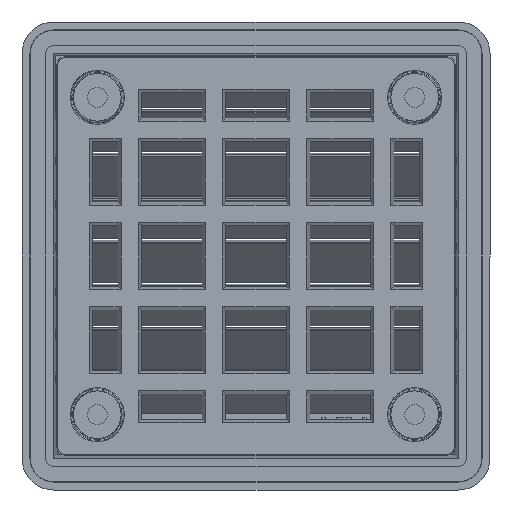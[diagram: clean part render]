
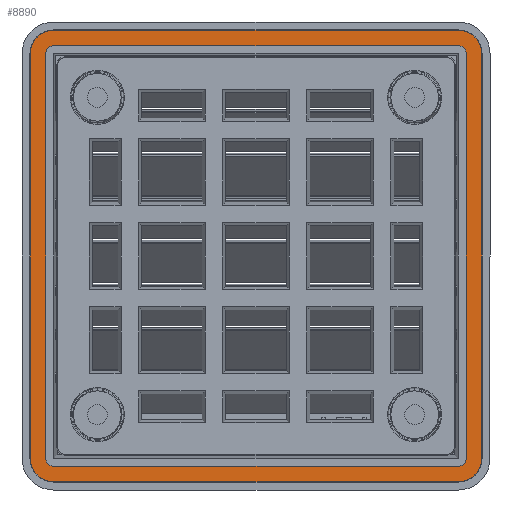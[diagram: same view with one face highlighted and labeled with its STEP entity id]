
A CAD part, front view. The second image highlights one B-rep face of the part: STEP entity #8890.
In plain terms, the highlighted planar face has unit normal (0, -1, 0).
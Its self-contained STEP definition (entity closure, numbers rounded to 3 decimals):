
#130 = AXIS2_PLACEMENT_3D ( 'NONE', #8356, #1378, #6294 ) ;
#133 = VERTEX_POINT ( 'NONE', #542 ) ;
#164 = VERTEX_POINT ( 'NONE', #8659 ) ;
#169 = DIRECTION ( 'NONE',  ( 0., 0., -1. ) ) ;
#214 = CARTESIAN_POINT ( 'NONE',  ( -28.465, 2., -25.5 ) ) ;
#289 = DIRECTION ( 'NONE',  ( 0., -1., 0. ) ) ;
#450 = VERTEX_POINT ( 'NONE', #11312 ) ;
#462 = CARTESIAN_POINT ( 'NONE',  ( 25.5, 2., -26.535 ) ) ;
#542 = CARTESIAN_POINT ( 'NONE',  ( 28.465, 2., -25.5 ) ) ;
#589 = EDGE_CURVE ( 'NONE', #661, #1632, #12381, .T. ) ;
#614 = AXIS2_PLACEMENT_3D ( 'NONE', #7344, #289, #8074 ) ;
#661 = VERTEX_POINT ( 'NONE', #723 ) ;
#705 = LINE ( 'NONE', #8760, #12823 ) ;
#723 = CARTESIAN_POINT ( 'NONE',  ( -25.5, 2., -26.535 ) ) ;
#900 = DIRECTION ( 'NONE',  ( 0., 0., -1. ) ) ;
#1010 = EDGE_CURVE ( 'NONE', #133, #164, #3029, .T. ) ;
#1060 = DIRECTION ( 'NONE',  ( -1., 0., 0. ) ) ;
#1126 = AXIS2_PLACEMENT_3D ( 'NONE', #12088, #9026, #900 ) ;
#1172 = ORIENTED_EDGE ( 'NONE', *, *, #3374, .F. ) ;
#1218 = CIRCLE ( 'NONE', #8651, 2.965 ) ;
#1368 = AXIS2_PLACEMENT_3D ( 'NONE', #11927, #8931, #9853 ) ;
#1378 = DIRECTION ( 'NONE',  ( 0., -1., 0. ) ) ;
#1422 = EDGE_CURVE ( 'NONE', #8377, #12301, #12135, .T. ) ;
#1470 = CARTESIAN_POINT ( 'NONE',  ( -28.465, 2., 25.5 ) ) ;
#1589 = DIRECTION ( 'NONE',  ( 0., -1., 0. ) ) ;
#1632 = VERTEX_POINT ( 'NONE', #7544 ) ;
#1666 = CARTESIAN_POINT ( 'NONE',  ( 25.5, 2., 28.465 ) ) ;
#1683 = LINE ( 'NONE', #8732, #12311 ) ;
#1723 = EDGE_CURVE ( 'NONE', #12301, #1914, #9639, .T. ) ;
#1822 = DIRECTION ( 'NONE',  ( 0., -1., 0. ) ) ;
#1914 = VERTEX_POINT ( 'NONE', #3645 ) ;
#1941 = ORIENTED_EDGE ( 'NONE', *, *, #1723, .T. ) ;
#2101 = DIRECTION ( 'NONE',  ( 0., -1., 0. ) ) ;
#2102 = ORIENTED_EDGE ( 'NONE', *, *, #1010, .T. ) ;
#2129 = VECTOR ( 'NONE', #2902, 1000. ) ;
#2249 = CIRCLE ( 'NONE', #3947, 1.035 ) ;
#2481 = VERTEX_POINT ( 'NONE', #9078 ) ;
#2503 = ORIENTED_EDGE ( 'NONE', *, *, #13146, .F. ) ;
#2682 = CIRCLE ( 'NONE', #130, 2.965 ) ;
#2902 = DIRECTION ( 'NONE',  ( 0., 0., -1. ) ) ;
#3029 = LINE ( 'NONE', #10142, #3074 ) ;
#3074 = VECTOR ( 'NONE', #12148, 1000. ) ;
#3093 = AXIS2_PLACEMENT_3D ( 'NONE', #12271, #6146, #4150 ) ;
#3187 = ORIENTED_EDGE ( 'NONE', *, *, #8504, .F. ) ;
#3193 = VERTEX_POINT ( 'NONE', #11071 ) ;
#3251 = VERTEX_POINT ( 'NONE', #4846 ) ;
#3349 = VECTOR ( 'NONE', #5522, 1000. ) ;
#3374 = EDGE_CURVE ( 'NONE', #3193, #450, #2249, .T. ) ;
#3645 = CARTESIAN_POINT ( 'NONE',  ( -25.5, 2., -28.465 ) ) ;
#3782 = DIRECTION ( 'NONE',  ( 0., 0., -1. ) ) ;
#3947 = AXIS2_PLACEMENT_3D ( 'NONE', #9276, #9413, #169 ) ;
#4061 = ORIENTED_EDGE ( 'NONE', *, *, #10255, .T. ) ;
#4150 = DIRECTION ( 'NONE',  ( 0., 0., -1. ) ) ;
#4387 = EDGE_CURVE ( 'NONE', #10282, #133, #1218, .T. ) ;
#4846 = CARTESIAN_POINT ( 'NONE',  ( -25.5, 2., 28.465 ) ) ;
#4877 = ORIENTED_EDGE ( 'NONE', *, *, #11169, .T. ) ;
#4904 = DIRECTION ( 'NONE',  ( 0., 0., 1. ) ) ;
#4961 = CARTESIAN_POINT ( 'NONE',  ( -26.535, 2., -25.5 ) ) ;
#5087 = AXIS2_PLACEMENT_3D ( 'NONE', #11872, #1822, #6880 ) ;
#5219 = CIRCLE ( 'NONE', #3093, 1.035 ) ;
#5296 = CARTESIAN_POINT ( 'NONE',  ( 25.5, 2., 26.535 ) ) ;
#5418 = ORIENTED_EDGE ( 'NONE', *, *, #10104, .F. ) ;
#5522 = DIRECTION ( 'NONE',  ( 1., 0., 0. ) ) ;
#5560 = EDGE_CURVE ( 'NONE', #1632, #2481, #5219, .T. ) ;
#6055 = LINE ( 'NONE', #8989, #11954 ) ;
#6072 = FACE_OUTER_BOUND ( 'NONE', #13019, .T. ) ;
#6079 = CARTESIAN_POINT ( 'NONE',  ( -28.465, 2., 25.5 ) ) ;
#6146 = DIRECTION ( 'NONE',  ( 0., -1., 0. ) ) ;
#6161 = CARTESIAN_POINT ( 'NONE',  ( -26.535, 2., 25.5 ) ) ;
#6294 = DIRECTION ( 'NONE',  ( 0., 0., -1. ) ) ;
#6351 = CIRCLE ( 'NONE', #614, 1.035 ) ;
#6468 = EDGE_CURVE ( 'NONE', #164, #12529, #8981, .T. ) ;
#6775 = CARTESIAN_POINT ( 'NONE',  ( 25.5, 2., -25.5 ) ) ;
#6813 = FACE_BOUND ( 'NONE', #7190, .T. ) ;
#6880 = DIRECTION ( 'NONE',  ( 0., 0., -1. ) ) ;
#6906 = ORIENTED_EDGE ( 'NONE', *, *, #6987, .F. ) ;
#6987 = EDGE_CURVE ( 'NONE', #2481, #10416, #705, .T. ) ;
#7059 = CARTESIAN_POINT ( 'NONE',  ( 25.5, 2., 28.465 ) ) ;
#7190 = EDGE_LOOP ( 'NONE', ( #6906, #13106, #8353, #3187, #8111, #1172, #2503, #5418 ) ) ;
#7199 = DIRECTION ( 'NONE',  ( -1., 0., 0. ) ) ;
#7319 = ORIENTED_EDGE ( 'NONE', *, *, #1422, .T. ) ;
#7344 = CARTESIAN_POINT ( 'NONE',  ( 25.5, 2., 25.5 ) ) ;
#7544 = CARTESIAN_POINT ( 'NONE',  ( 25.5, 2., -26.535 ) ) ;
#7779 = DIRECTION ( 'NONE',  ( 0., 0., -1. ) ) ;
#8074 = DIRECTION ( 'NONE',  ( 0., 0., -1. ) ) ;
#8111 = ORIENTED_EDGE ( 'NONE', *, *, #9532, .F. ) ;
#8122 = CIRCLE ( 'NONE', #9818, 1.035 ) ;
#8264 = EDGE_CURVE ( 'NONE', #12529, #3251, #12179, .T. ) ;
#8353 = ORIENTED_EDGE ( 'NONE', *, *, #589, .F. ) ;
#8356 = CARTESIAN_POINT ( 'NONE',  ( -25.5, 2., 25.5 ) ) ;
#8377 = VERTEX_POINT ( 'NONE', #1470 ) ;
#8504 = EDGE_CURVE ( 'NONE', #11506, #661, #8122, .T. ) ;
#8651 = AXIS2_PLACEMENT_3D ( 'NONE', #6775, #1589, #3782 ) ;
#8659 = CARTESIAN_POINT ( 'NONE',  ( 28.465, 2., 25.5 ) ) ;
#8732 = CARTESIAN_POINT ( 'NONE',  ( 25.5, 2., -28.465 ) ) ;
#8760 = CARTESIAN_POINT ( 'NONE',  ( 26.535, 2., 25.5 ) ) ;
#8867 = CARTESIAN_POINT ( 'NONE',  ( 25.5, 2., -28.465 ) ) ;
#8890 = ADVANCED_FACE ( 'NONE', ( #6813, #6072 ), #10121, .T. ) ;
#8931 = DIRECTION ( 'NONE',  ( 0., -1., 0. ) ) ;
#8981 = CIRCLE ( 'NONE', #1126, 2.965 ) ;
#8989 = CARTESIAN_POINT ( 'NONE',  ( 25.5, 2., 26.535 ) ) ;
#9026 = DIRECTION ( 'NONE',  ( 0., -1., 0. ) ) ;
#9078 = CARTESIAN_POINT ( 'NONE',  ( 26.535, 2., -25.5 ) ) ;
#9084 = CARTESIAN_POINT ( 'NONE',  ( -25.5, 2., -25.5 ) ) ;
#9153 = LINE ( 'NONE', #6161, #2129 ) ;
#9276 = CARTESIAN_POINT ( 'NONE',  ( -25.5, 2., 25.5 ) ) ;
#9413 = DIRECTION ( 'NONE',  ( 0., -1., 0. ) ) ;
#9514 = CARTESIAN_POINT ( 'NONE',  ( 26.535, 2., 25.5 ) ) ;
#9532 = EDGE_CURVE ( 'NONE', #450, #11506, #9153, .T. ) ;
#9639 = CIRCLE ( 'NONE', #1368, 2.965 ) ;
#9818 = AXIS2_PLACEMENT_3D ( 'NONE', #9084, #2101, #7779 ) ;
#9853 = DIRECTION ( 'NONE',  ( 0., 0., -1. ) ) ;
#10104 = EDGE_CURVE ( 'NONE', #10416, #11163, #6351, .T. ) ;
#10121 = PLANE ( 'NONE',  #5087 ) ;
#10128 = DIRECTION ( 'NONE',  ( 0., 0., -1. ) ) ;
#10142 = CARTESIAN_POINT ( 'NONE',  ( 28.465, 2., 25.5 ) ) ;
#10151 = ORIENTED_EDGE ( 'NONE', *, *, #8264, .T. ) ;
#10255 = EDGE_CURVE ( 'NONE', #1914, #10282, #1683, .T. ) ;
#10282 = VERTEX_POINT ( 'NONE', #8867 ) ;
#10416 = VERTEX_POINT ( 'NONE', #9514 ) ;
#11071 = CARTESIAN_POINT ( 'NONE',  ( -25.5, 2., 26.535 ) ) ;
#11163 = VERTEX_POINT ( 'NONE', #5296 ) ;
#11169 = EDGE_CURVE ( 'NONE', #3251, #8377, #2682, .T. ) ;
#11312 = CARTESIAN_POINT ( 'NONE',  ( -26.535, 2., 25.5 ) ) ;
#11506 = VERTEX_POINT ( 'NONE', #4961 ) ;
#11556 = ORIENTED_EDGE ( 'NONE', *, *, #4387, .T. ) ;
#11868 = ORIENTED_EDGE ( 'NONE', *, *, #6468, .T. ) ;
#11872 = CARTESIAN_POINT ( 'NONE',  ( 25.5, 2., 25.5 ) ) ;
#11927 = CARTESIAN_POINT ( 'NONE',  ( -25.5, 2., -25.5 ) ) ;
#11954 = VECTOR ( 'NONE', #7199, 1000. ) ;
#12053 = DIRECTION ( 'NONE',  ( 1., 0., 0. ) ) ;
#12088 = CARTESIAN_POINT ( 'NONE',  ( 25.5, 2., 25.5 ) ) ;
#12135 = LINE ( 'NONE', #6079, #12414 ) ;
#12148 = DIRECTION ( 'NONE',  ( 0., 0., 1. ) ) ;
#12163 = VECTOR ( 'NONE', #1060, 1000. ) ;
#12179 = LINE ( 'NONE', #7059, #12163 ) ;
#12271 = CARTESIAN_POINT ( 'NONE',  ( 25.5, 2., -25.5 ) ) ;
#12301 = VERTEX_POINT ( 'NONE', #214 ) ;
#12311 = VECTOR ( 'NONE', #12053, 1000. ) ;
#12381 = LINE ( 'NONE', #462, #3349 ) ;
#12414 = VECTOR ( 'NONE', #10128, 1000. ) ;
#12529 = VERTEX_POINT ( 'NONE', #1666 ) ;
#12823 = VECTOR ( 'NONE', #4904, 1000. ) ;
#13019 = EDGE_LOOP ( 'NONE', ( #11868, #10151, #4877, #7319, #1941, #4061, #11556, #2102 ) ) ;
#13106 = ORIENTED_EDGE ( 'NONE', *, *, #5560, .F. ) ;
#13146 = EDGE_CURVE ( 'NONE', #11163, #3193, #6055, .T. ) ;
